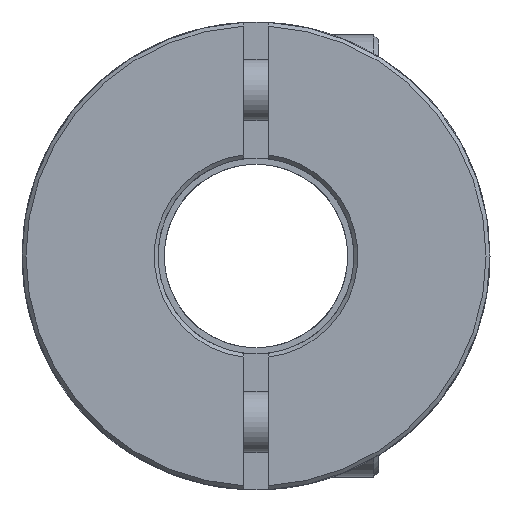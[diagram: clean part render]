
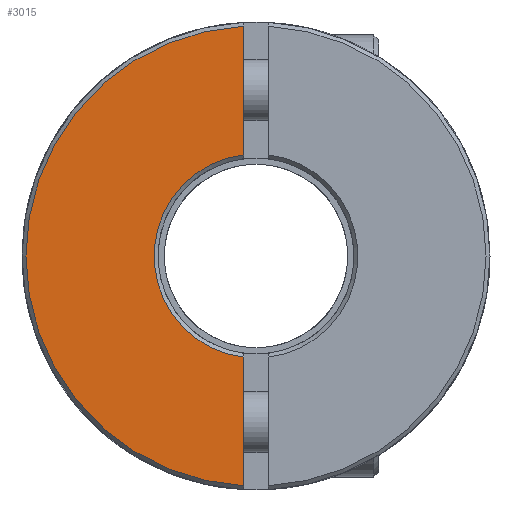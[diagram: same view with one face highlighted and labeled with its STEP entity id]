
A CAD part, front view. The second image highlights one B-rep face of the part: STEP entity #3015.
In plain terms, the highlighted planar face has unit normal (0, -1, 0).
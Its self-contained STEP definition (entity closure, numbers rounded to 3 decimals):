
#1=DIRECTION('',(0.,0.,-1.));
#2=VECTOR('',#1,5.247);
#3=CARTESIAN_POINT('',(-0.5,-14.,9.377));
#4=LINE('',#3,#2);
#5=DIRECTION('',(0.,0.,-1.));
#6=VECTOR('',#5,5.247);
#7=CARTESIAN_POINT('',(-0.5,-14.,-4.13));
#8=LINE('',#7,#6);
#2114=CARTESIAN_POINT('',(0.,-14.,0.));
#2115=DIRECTION('',(0.,1.,0.));
#2116=DIRECTION('',(-0.12,0.,-0.993));
#2117=AXIS2_PLACEMENT_3D('',#2114,#2115,#2116);
#2150=CARTESIAN_POINT('',(0.,-14.,0.));
#2151=DIRECTION('',(0.,-1.,0.));
#2152=DIRECTION('',(-0.053,0.,0.999));
#2153=AXIS2_PLACEMENT_3D('',#2150,#2151,#2152);
#2740=CARTESIAN_POINT('',(-0.5,-14.,9.377));
#2741=CARTESIAN_POINT('',(-0.5,-14.,4.13));
#2742=VERTEX_POINT('',#2740);
#2743=VERTEX_POINT('',#2741);
#2744=CARTESIAN_POINT('',(-0.5,-14.,-4.13));
#2745=CARTESIAN_POINT('',(-0.5,-14.,-9.377));
#2746=VERTEX_POINT('',#2744);
#2747=VERTEX_POINT('',#2745);
#3000=CARTESIAN_POINT('',(0.,-14.,0.));
#3001=DIRECTION('',(0.,1.,0.));
#3002=DIRECTION('',(1.,0.,0.));
#3003=AXIS2_PLACEMENT_3D('',#3000,#3001,#3002);
#3004=PLANE('',#3003);
#3006=ORIENTED_EDGE('',*,*,#3005,.T.);
#3008=ORIENTED_EDGE('',*,*,#3007,.F.);
#3010=ORIENTED_EDGE('',*,*,#3009,.T.);
#3012=ORIENTED_EDGE('',*,*,#3011,.F.);
#3013=EDGE_LOOP('',(#3006,#3008,#3010,#3012));
#3014=FACE_OUTER_BOUND('',#3013,.F.);
#3015=ADVANCED_FACE('',(#3014),#3004,.F.);
#2118=CIRCLE('',#2117,4.16);
#2154=CIRCLE('',#2153,9.39);
#3005=EDGE_CURVE('',#2742,#2743,#4,.T.);
#3007=EDGE_CURVE('',#2746,#2743,#2118,.T.);
#3009=EDGE_CURVE('',#2746,#2747,#8,.T.);
#3011=EDGE_CURVE('',#2742,#2747,#2154,.T.);
